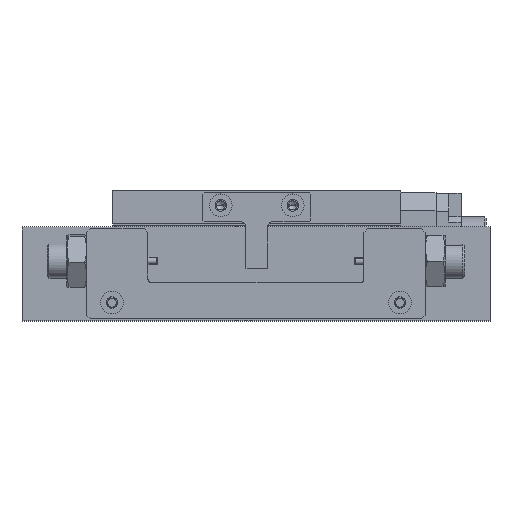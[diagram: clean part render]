
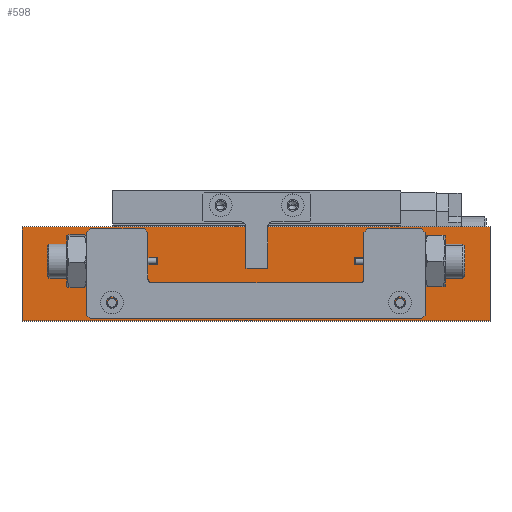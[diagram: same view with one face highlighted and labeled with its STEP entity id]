
A CAD part, top view. The second image highlights one B-rep face of the part: STEP entity #598.
In plain terms, the highlighted planar face has unit normal (0, 0, 1).
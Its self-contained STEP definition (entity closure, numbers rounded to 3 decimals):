
#79 = CARTESIAN_POINT ( 'NONE',  ( -65., 26., 34.5 ) ) ;
#89 = ORIENTED_EDGE ( 'NONE', *, *, #15440, .T. ) ;
#141 = ORIENTED_EDGE ( 'NONE', *, *, #1774, .F. ) ;
#564 = CARTESIAN_POINT ( 'NONE',  ( -38.75, 5., 34.5 ) ) ;
#598 = ADVANCED_FACE ( 'NONE', ( #3200, #5652, #10921 ), #9715, .F. ) ;
#794 = CARTESIAN_POINT ( 'NONE',  ( -41.25, 5., 34.5 ) ) ;
#838 = CARTESIAN_POINT ( 'NONE',  ( 41.25, 5., 34.5 ) ) ;
#968 = EDGE_LOOP ( 'NONE', ( #16290, #13065 ) ) ;
#1112 = EDGE_CURVE ( 'NONE', #4892, #1813, #8566, .T. ) ;
#1774 = EDGE_CURVE ( 'NONE', #15669, #11171, #10310, .T. ) ;
#1813 = VERTEX_POINT ( 'NONE', #16194 ) ;
#2071 = DIRECTION ( 'NONE',  ( 0., -1., 0. ) ) ;
#2138 = CARTESIAN_POINT ( 'NONE',  ( -65., 0., 34.5 ) ) ;
#2189 = CIRCLE ( 'NONE', #16000, 1.25 ) ;
#2447 = VERTEX_POINT ( 'NONE', #10013 ) ;
#2723 = CIRCLE ( 'NONE', #7998, 1.25 ) ;
#2734 = CARTESIAN_POINT ( 'NONE',  ( -40., 5., 34.5 ) ) ;
#3060 = VECTOR ( 'NONE', #2071, 1000. ) ;
#3200 = FACE_BOUND ( 'NONE', #968, .T. ) ;
#3401 = DIRECTION ( 'NONE',  ( 1., 0., 0. ) ) ;
#3622 = DIRECTION ( 'NONE',  ( 1., 0., 0. ) ) ;
#3842 = EDGE_CURVE ( 'NONE', #11171, #15669, #2723, .T. ) ;
#4545 = DIRECTION ( 'NONE',  ( 0., 0., 1. ) ) ;
#4892 = VERTEX_POINT ( 'NONE', #13063 ) ;
#5120 = ORIENTED_EDGE ( 'NONE', *, *, #3842, .F. ) ;
#5377 = DIRECTION ( 'NONE',  ( 0., -1., 0. ) ) ;
#5582 = VERTEX_POINT ( 'NONE', #564 ) ;
#5583 = VECTOR ( 'NONE', #9952, 1000. ) ;
#5588 = CARTESIAN_POINT ( 'NONE',  ( 38.75, 5., 34.5 ) ) ;
#5652 = FACE_BOUND ( 'NONE', #13685, .T. ) ;
#5920 = CARTESIAN_POINT ( 'NONE',  ( 40., 5., 34.5 ) ) ;
#6668 = EDGE_LOOP ( 'NONE', ( #14264, #15100, #15056, #89 ) ) ;
#6866 = DIRECTION ( 'NONE',  ( 0., 0., 1. ) ) ;
#7415 = VERTEX_POINT ( 'NONE', #794 ) ;
#7552 = CIRCLE ( 'NONE', #16903, 1.25 ) ;
#7947 = DIRECTION ( 'NONE',  ( 1., 0., 0. ) ) ;
#7998 = AXIS2_PLACEMENT_3D ( 'NONE', #15475, #16680, #3622 ) ;
#8428 = CARTESIAN_POINT ( 'NONE',  ( -65., 26., 34.5 ) ) ;
#8483 = LINE ( 'NONE', #16501, #3060 ) ;
#8566 = LINE ( 'NONE', #2138, #5583 ) ;
#8793 = LINE ( 'NONE', #79, #9406 ) ;
#9406 = VECTOR ( 'NONE', #5377, 1000. ) ;
#9715 = PLANE ( 'NONE',  #12132 ) ;
#9952 = DIRECTION ( 'NONE',  ( 1., 0., 0. ) ) ;
#10013 = CARTESIAN_POINT ( 'NONE',  ( 65., 26., 34.5 ) ) ;
#10248 = VECTOR ( 'NONE', #13496, 1000. ) ;
#10310 = CIRCLE ( 'NONE', #13342, 1.25 ) ;
#10921 = FACE_OUTER_BOUND ( 'NONE', #6668, .T. ) ;
#11171 = VERTEX_POINT ( 'NONE', #5588 ) ;
#11351 = VERTEX_POINT ( 'NONE', #16465 ) ;
#12116 = DIRECTION ( 'NONE',  ( 0., 0., -1. ) ) ;
#12132 = AXIS2_PLACEMENT_3D ( 'NONE', #8428, #12116, #15079 ) ;
#12182 = DIRECTION ( 'NONE',  ( 0., 0., 1. ) ) ;
#13063 = CARTESIAN_POINT ( 'NONE',  ( -65., 0., 34.5 ) ) ;
#13065 = ORIENTED_EDGE ( 'NONE', *, *, #14530, .F. ) ;
#13342 = AXIS2_PLACEMENT_3D ( 'NONE', #5920, #6866, #14899 ) ;
#13496 = DIRECTION ( 'NONE',  ( 1., 0., 0. ) ) ;
#13685 = EDGE_LOOP ( 'NONE', ( #141, #5120 ) ) ;
#14264 = ORIENTED_EDGE ( 'NONE', *, *, #1112, .T. ) ;
#14530 = EDGE_CURVE ( 'NONE', #7415, #5582, #2189, .T. ) ;
#14881 = LINE ( 'NONE', #16179, #10248 ) ;
#14899 = DIRECTION ( 'NONE',  ( 1., 0., 0. ) ) ;
#15056 = ORIENTED_EDGE ( 'NONE', *, *, #15375, .F. ) ;
#15079 = DIRECTION ( 'NONE',  ( -1., 0., 0. ) ) ;
#15100 = ORIENTED_EDGE ( 'NONE', *, *, #15527, .F. ) ;
#15259 = CARTESIAN_POINT ( 'NONE',  ( -40., 5., 34.5 ) ) ;
#15375 = EDGE_CURVE ( 'NONE', #11351, #2447, #14881, .T. ) ;
#15440 = EDGE_CURVE ( 'NONE', #11351, #4892, #8793, .T. ) ;
#15475 = CARTESIAN_POINT ( 'NONE',  ( 40., 5., 34.5 ) ) ;
#15527 = EDGE_CURVE ( 'NONE', #2447, #1813, #8483, .T. ) ;
#15669 = VERTEX_POINT ( 'NONE', #838 ) ;
#16000 = AXIS2_PLACEMENT_3D ( 'NONE', #15259, #4545, #3401 ) ;
#16179 = CARTESIAN_POINT ( 'NONE',  ( -65., 26., 34.5 ) ) ;
#16194 = CARTESIAN_POINT ( 'NONE',  ( 65., 0., 34.5 ) ) ;
#16290 = ORIENTED_EDGE ( 'NONE', *, *, #16644, .F. ) ;
#16465 = CARTESIAN_POINT ( 'NONE',  ( -65., 26., 34.5 ) ) ;
#16501 = CARTESIAN_POINT ( 'NONE',  ( 65., 26., 34.5 ) ) ;
#16644 = EDGE_CURVE ( 'NONE', #5582, #7415, #7552, .T. ) ;
#16680 = DIRECTION ( 'NONE',  ( 0., 0., 1. ) ) ;
#16903 = AXIS2_PLACEMENT_3D ( 'NONE', #2734, #12182, #7947 ) ;
